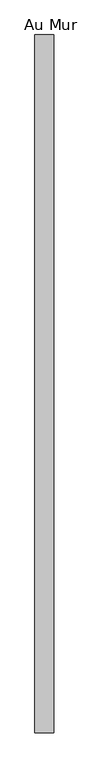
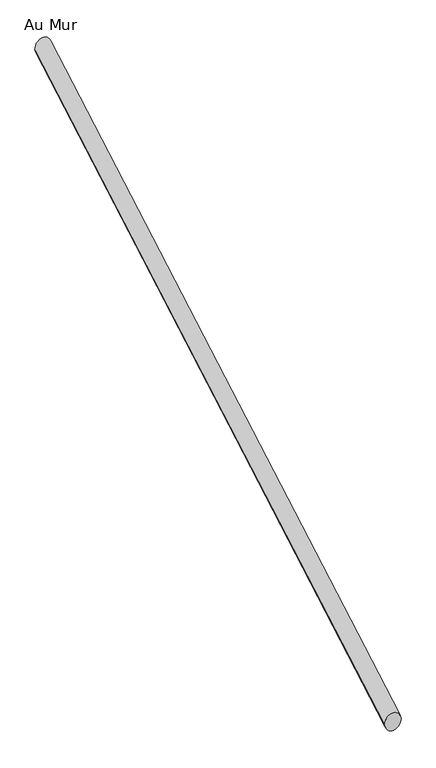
"""IFC4 building model written with IfcOpenShell, lengths in millimetres: railing geometry, Au Mur."""

from ifc_helpers import new_model, si_unit, frame, origin, place, context, project, spatial, ellipse_curve, source, transform, mapped, element, save
from ifc_brep_helpers import plane_surface, cylinder_surface, advanced_brep


def au_mur_cce7b2e9(model_context):
    return source(origin(), model_context, "Body", "AdvancedBrep", [
        advanced_brep(
        [(-18703.5891727, 2488.7206382, 1296.0320076), (-18733.5891727, 2488.7206382, 1296.0320076), (-18703.5891727, 3608.7206382, 1936.0320076), (-18733.5891727, 3608.7206382, 1936.0320076)],
        [
            (0, 1, ellipse_curve(frame((-18718.5891727, 2488.7206382, 1296.0320076), z_axis=(0.0, -1.0, 0.0), x_axis=(0.0, 0.0, -1.0)), 17.2762666, 15.0)),
            (1, 0, ellipse_curve(frame((-18718.5891727, 2488.7206382, 1296.0320076), z_axis=(0.0, -1.0, 0.0), x_axis=(0.0, 0.0, -1.0)), 17.2762666, 15.0)),
            (2, 3, ellipse_curve(frame((-18718.5891727, 3608.7206382, 1936.0320076), z_axis=(0.0, 1.0, 0.0), x_axis=(0.0, 0.0, -1.0)), 17.2762666, 15.0)),
            (3, 2, ellipse_curve(frame((-18718.5891727, 3608.7206382, 1936.0320076), z_axis=(0.0, 1.0, 0.0), x_axis=(0.0, 0.0, -1.0)), 17.2762666, 15.0)),
            (0, 2),
            (3, 1),
        ],
        [
            plane_surface(frame((-18718.5891727, 2488.7206382, 1313.3082742), z_axis=(0.0, -1.0, 0.0), x_axis=(0.0, 0.0, 1.0))),
            plane_surface(frame((-18718.5891727, 3608.7206382, 1953.3082742), z_axis=(0.0, 1.0, 0.0), x_axis=(0.0, 0.0, 1.0))),
            cylinder_surface(frame((-18718.5891727, 2496.1627222, 1300.2846271), z_axis=(0.0, -0.8682431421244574, -0.4961389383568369), x_axis=(-1.0, 0.0, 0.0)), 15.0),
        ],
        [
            (0, [[1, 2]]),
            (1, [[3, 4]]),
            (2, [[-1, 5, -4, 6]]),
            (2, [[-2, -6, -3, -5]]),
        ],
    ),
    ])


if __name__ == "__main__":
    model = new_model("IFC4")
    model_context = context("Model", 3, world=origin())
    ifc_project = project(units=[si_unit("LENGTHUNIT", "METRE", prefix="MILLI")], contexts=[model_context])
    site = spatial("IfcSite", under=ifc_project)
    building = spatial("IfcBuilding", under=site)
    placement = place(None, origin())
    au_mur_shape = au_mur_cce7b2e9(model_context)
    element("IfcRailing", 1, ObjectType="Au Mur", at=placement, inside=building, context=model_context, shape_type="MappedRepresentation", body=[
        mapped(au_mur_shape, transform((0.0, 0.0, 0.0), x_axis=(1.0, 0.0, 0.0), y_axis=(0.0, 1.0, 0.0), z_axis=(0.0, 0.0, 1.0))),
    ])
    save(model, "model.ifc")
